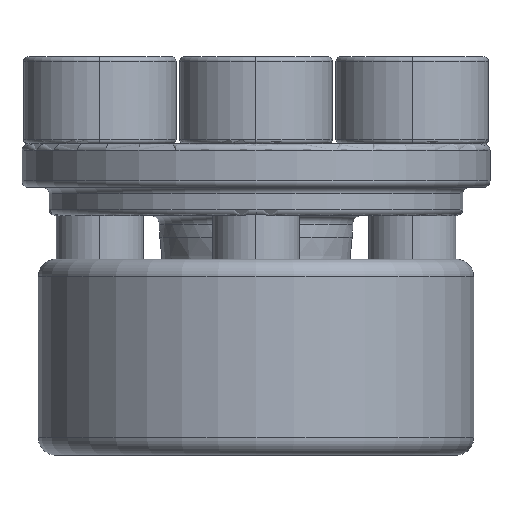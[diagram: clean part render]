
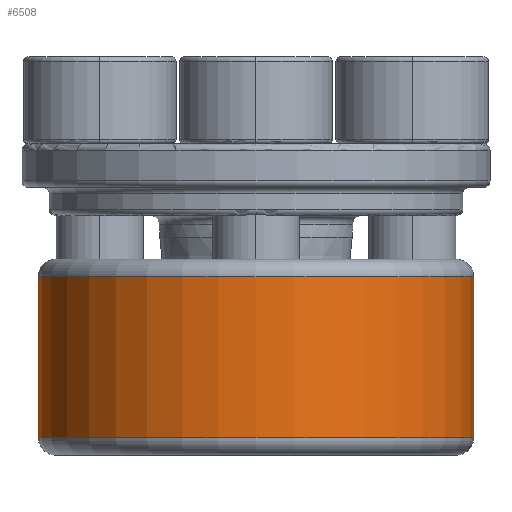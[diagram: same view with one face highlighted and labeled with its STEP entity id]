
A CAD part, left-side view. The second image highlights one B-rep face of the part: STEP entity #6508.
In plain terms, the highlighted cylindrical face has radius 10 mm (diameter 20 mm), a partial arc.
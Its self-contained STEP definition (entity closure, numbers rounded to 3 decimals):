
#46 = VECTOR ( 'NONE', #5061, 1000. ) ;
#482 = EDGE_LOOP ( 'NONE', ( #1127, #6489, #3323, #3308 ) ) ;
#645 = DIRECTION ( 'NONE',  ( 0., 0., 1. ) ) ;
#1127 = ORIENTED_EDGE ( 'NONE', *, *, #6287, .F. ) ;
#1199 = CIRCLE ( 'NONE', #5473, 10. ) ;
#1679 = DIRECTION ( 'NONE',  ( 0., 0., 1. ) ) ;
#1900 = EDGE_CURVE ( 'NONE', #3299, #2880, #1199, .T. ) ;
#2142 = AXIS2_PLACEMENT_3D ( 'NONE', #3778, #645, #4319 ) ;
#2370 = DIRECTION ( 'NONE',  ( 0., 0., -1. ) ) ;
#2745 = CIRCLE ( 'NONE', #2142, 10. ) ;
#2813 = CARTESIAN_POINT ( 'NONE',  ( 0., -10., -3.7 ) ) ;
#2833 = LINE ( 'NONE', #3473, #46 ) ;
#2880 = VERTEX_POINT ( 'NONE', #6330 ) ;
#2987 = CARTESIAN_POINT ( 'NONE',  ( 0., 0., 4.5 ) ) ;
#3089 = VERTEX_POINT ( 'NONE', #2813 ) ;
#3299 = VERTEX_POINT ( 'NONE', #5100 ) ;
#3308 = ORIENTED_EDGE ( 'NONE', *, *, #1900, .T. ) ;
#3323 = ORIENTED_EDGE ( 'NONE', *, *, #4298, .T. ) ;
#3453 = CARTESIAN_POINT ( 'NONE',  ( 0., 10., -3.7 ) ) ;
#3473 = CARTESIAN_POINT ( 'NONE',  ( 0., 10., 4.5 ) ) ;
#3510 = DIRECTION ( 'NONE',  ( 0., -1., 0. ) ) ;
#3778 = CARTESIAN_POINT ( 'NONE',  ( 0., 0., -3.7 ) ) ;
#3970 = AXIS2_PLACEMENT_3D ( 'NONE', #2987, #4589, #3510 ) ;
#4298 = EDGE_CURVE ( 'NONE', #3089, #3299, #5627, .T. ) ;
#4319 = DIRECTION ( 'NONE',  ( 0., -1., 0. ) ) ;
#4589 = DIRECTION ( 'NONE',  ( 0., 0., 1. ) ) ;
#5061 = DIRECTION ( 'NONE',  ( 0., 0., 1. ) ) ;
#5100 = CARTESIAN_POINT ( 'NONE',  ( 0., -10., 3.7 ) ) ;
#5383 = CARTESIAN_POINT ( 'NONE',  ( 0., -10., 4.5 ) ) ;
#5454 = VECTOR ( 'NONE', #1679, 1000. ) ;
#5473 = AXIS2_PLACEMENT_3D ( 'NONE', #5551, #2370, #6082 ) ;
#5551 = CARTESIAN_POINT ( 'NONE',  ( 0., 0., 3.7 ) ) ;
#5558 = CYLINDRICAL_SURFACE ( 'NONE', #3970, 10. ) ;
#5627 = LINE ( 'NONE', #5383, #5454 ) ;
#5732 = FACE_OUTER_BOUND ( 'NONE', #482, .T. ) ;
#6025 = EDGE_CURVE ( 'NONE', #6267, #3089, #2745, .T. ) ;
#6082 = DIRECTION ( 'NONE',  ( 0., 1., 0. ) ) ;
#6267 = VERTEX_POINT ( 'NONE', #3453 ) ;
#6287 = EDGE_CURVE ( 'NONE', #6267, #2880, #2833, .T. ) ;
#6330 = CARTESIAN_POINT ( 'NONE',  ( 0., 10., 3.7 ) ) ;
#6489 = ORIENTED_EDGE ( 'NONE', *, *, #6025, .T. ) ;
#6508 = ADVANCED_FACE ( 'NONE', ( #5732 ), #5558, .T. ) ;
